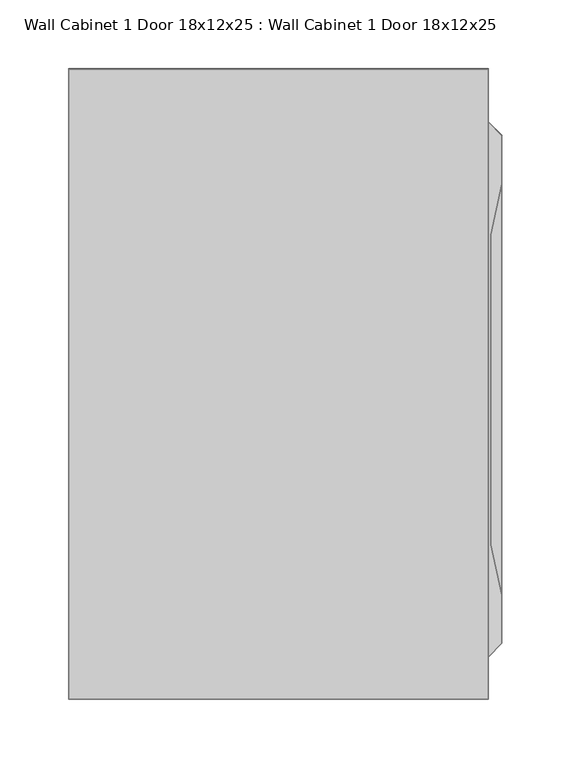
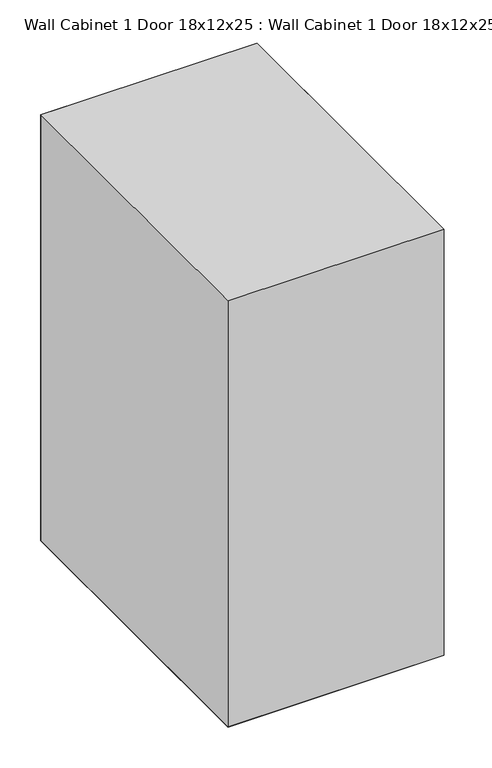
"""IFC4 building model written with IfcOpenShell, lengths in millimetres: furniture geometry, Wall Cabinet 1 Door 18x12x25 : Wall Cabinet 1 Door 18x12x25."""

from ifc_helpers import new_model, si_unit, origin, place, context, project, spatial, triangles, source, transform, mapped, element, save


def wall_cabinet_1_door_18x12x25_wall_cabinet_1_door_18x12x25_5ed39595(model_context):
    return source(origin(), model_context, "Body", "Tessellation", [
        triangles([(304.8, 30.4952407, 609.6), (304.8, 95.2329316, 609.6), (314.4926497, 40.4139167, 601.126571), (314.4926497, 101.8564736, 601.126571), (304.8, 159.9373488, 609.6), (304.8, 224.6417387, 609.6), (314.4926497, 163.265743, 601.126571), (314.4926497, 224.6750216, 601.126571), (304.8, 289.3794296, 609.6), (314.4926497, 286.0843001, 601.126571), (304.8, 354.0838377, 609.6), (304.8, 418.7882458, 609.6), (314.4926497, 347.4935786, 601.126571), (314.4926497, 408.902839, 601.126571), (314.4926497, 40.4139167, 33.7921597), (304.8, 30.4952407, 25.3796804), (314.4926497, 101.8564736, 33.7921597), (304.8, 95.2329316, 25.3796804), (304.8, 159.9373488, 25.3796804), (314.4926497, 163.265743, 33.7921597), (314.4926497, 224.6750216, 33.7921597), (304.8, 224.6417387, 25.3796804), (304.8, 289.3794296, 25.3796804), (314.4926497, 286.0843001, 33.7921597), (304.8, 354.0838377, 25.3796804), (314.4926497, 347.4935786, 33.7921597), (314.4926497, 408.902839, 33.7921597), (304.8, 418.7882458, 25.3796804)], [[3, 2, 1], [4, 2, 3], [4, 7, 2], [5, 2, 7], [7, 6, 5], [8, 6, 7], [8, 9, 6], [10, 9, 8], [10, 11, 9], [13, 11, 10], [13, 12, 11], [14, 12, 13], [17, 16, 15], [17, 18, 16], [19, 18, 17], [17, 20, 19], [22, 19, 20], [20, 21, 22], [24, 22, 21], [24, 23, 22], [26, 23, 24], [26, 25, 23], [27, 25, 26], [27, 28, 25]], closed=False),
        triangles([(306.5068726, 149.6525296, 85.4252817), (306.5068726, 112.041426, 507.0347852), (306.5068726, 150.8507577, 518.1295295), (306.5068726, 187.1637756, 85.4252817), (306.5068726, 224.6417387, 545.3481442), (306.5068726, 184.2680584, 538.7339767), (306.5068726, 224.6417387, 85.4252817), (306.5068726, 265.0154371, 538.7339767), (306.5068726, 262.1529847, 85.4252817), (306.5068726, 298.4660116, 518.1295295), (306.5068726, 299.6642488, 85.4252817), (306.5068726, 337.1422119, 85.4252817), (306.5068726, 337.2420605, 507.0347852), (314.4926497, 373.8213321, 527.029713), (314.4926497, 373.7880492, 63.6625612), (314.4926497, 408.902839, 33.7921597), (314.4926497, 408.902839, 601.126571), (306.5068726, 112.1745756, 85.4252817), (314.4926497, 75.4621408, 527.029713), (314.4926497, 75.528711, 63.6625612), (314.4926497, 40.3806339, 601.126571), (314.4926497, 40.3806339, 33.7921597), (304.8, 30.4952407, 25.3796804), (304.8, 30.4952407, 609.6)], [[18, 1, 2], [3, 2, 1], [1, 4, 3], [6, 3, 4], [4, 7, 6], [5, 6, 7], [7, 9, 5], [8, 5, 9], [9, 11, 8], [10, 8, 11], [11, 12, 10], [13, 10, 12], [12, 14, 13], [15, 14, 12], [15, 16, 14], [17, 14, 16], [19, 18, 2], [19, 20, 18], [22, 20, 19], [19, 21, 22], [23, 22, 21], [21, 24, 23]], closed=False),
        triangles([(314.4926497, 408.902839, 601.126571), (314.4926497, 408.902839, 33.7921597), (304.8, 418.7882458, 609.6), (304.8, 418.7882458, 25.3796804)], [[2, 3, 1], [4, 3, 2]], closed=False),
        triangles([(314.4926497, 40.4139167, 601.126571), (314.4926497, 127.6184185, 537.3014697), (314.4926497, 172.0527793, 562.843697), (314.4926497, 101.8564736, 601.126571), (314.4926497, 163.265743, 601.126571), (314.4926497, 224.6417387, 571.4390662), (314.4926497, 277.2307344, 562.843697), (314.4926497, 224.6750216, 601.126571), (314.4926497, 286.0843001, 601.126571), (314.4926497, 347.4935786, 601.126571), (314.4926497, 408.902839, 601.126571), (314.4926497, 75.4288579, 527.029713), (306.5068726, 112.041426, 507.0347852), (306.5068726, 150.8507577, 518.1295295), (306.5068726, 184.2680584, 538.7339767), (306.5068726, 224.6417387, 545.3481442), (306.5068726, 265.0154371, 538.7339767), (306.5068726, 298.4660116, 518.1295295), (314.4926497, 321.6317851, 537.3014697), (306.5068726, 337.2420605, 507.0347852), (314.4926497, 373.8213321, 527.029713), (306.5068726, 112.1745756, 85.4252817), (314.4926497, 125.1553966, 63.6625612), (306.5068726, 149.6525296, 85.4252817), (314.4926497, 174.8819308, 63.6625612), (306.5068726, 187.1637756, 85.4252817), (306.5068726, 224.6417387, 85.4252817), (314.4926497, 274.3349991, 63.6625612), (306.5068726, 262.1529847, 85.4252817), (306.5068726, 299.6642488, 85.4252817), (314.4926497, 324.0615423, 63.6625612), (306.5068726, 337.1422119, 85.4252817), (314.4926497, 75.4288579, 63.6625612), (314.4926497, 40.4139167, 33.7921597), (314.4926497, 101.8564736, 33.7921597), (314.4926497, 163.265743, 33.7921597), (314.4926497, 224.6084558, 63.6625612), (314.4926497, 224.6750216, 33.7921597), (314.4926497, 286.0843001, 33.7921597), (314.4926497, 347.4935786, 33.7921597), (314.4926497, 408.902839, 33.7921597), (314.4926497, 373.7880492, 63.6625612)], [[12, 2, 1], [4, 1, 2], [2, 3, 4], [5, 4, 3], [3, 6, 5], [8, 5, 6], [6, 7, 8], [9, 8, 7], [7, 19, 9], [10, 9, 19], [19, 21, 10], [11, 10, 21], [13, 2, 12], [14, 2, 13], [14, 3, 2], [15, 3, 14], [15, 6, 3], [16, 6, 15], [17, 6, 16], [7, 6, 17], [18, 7, 17], [19, 7, 18], [20, 19, 18], [21, 19, 20], [33, 24, 22], [23, 24, 33], [23, 25, 24], [26, 24, 25], [25, 27, 26], [37, 27, 25], [37, 29, 27], [28, 29, 37], [28, 30, 29], [31, 30, 28], [31, 42, 30], [32, 30, 42], [34, 35, 33], [23, 33, 35], [35, 36, 23], [25, 23, 36], [36, 38, 25], [37, 25, 38], [38, 39, 37], [28, 37, 39], [39, 40, 28], [31, 28, 40], [40, 41, 31], [42, 31, 41]], closed=False),
        triangles([(0.0, 457.2, 0.0), (304.8, 457.2, 0.0), (304.8, 0.0, 0.0), (0.0, 0.0, 0.0), (304.8, 0.0, 634.9999758), (304.8, 457.2, 634.9999758), (0.0, 457.2, 634.9999758), (0.0, 0.0, 634.9999758)], [[2, 1, 4], [4, 3, 2], [6, 7, 5], [8, 5, 7]], closed=False),
        triangles([(304.8, 0.0, 0.0), (304.8, 457.2, 0.0), (304.8, 457.2, 634.9999758), (304.8, 0.0, 634.9999758), (0.0, 457.2, 634.9999758), (0.0, 457.2, 0.0), (0.0, 0.0, 0.0), (0.0, 0.0, 634.9999758)], [[1, 2, 4], [3, 4, 2], [7, 6, 5], [5, 8, 7]], closed=False),
        triangles([(0.0, 0.0, 634.9999758), (0.0, 0.0, 0.0), (304.8, 0.0, 0.0), (304.8, 0.0, 634.9999758), (304.8, 457.2, 634.9999758), (304.8, 457.2, 0.0), (0.0, 457.2, 0.0), (0.0, 457.2, 634.9999758)], [[3, 2, 1], [1, 4, 3], [6, 7, 5], [8, 5, 7]], closed=False),
    ])


if __name__ == "__main__":
    model = new_model("IFC4")
    model_context = context("Model", 3, world=origin())
    ifc_project = project(units=[si_unit("LENGTHUNIT", "METRE", prefix="MILLI")], contexts=[model_context])
    site = spatial("IfcSite", under=ifc_project)
    building = spatial("IfcBuilding", under=site)
    placement = place(None, origin())
    wall_cabinet_1_door_18x12x25_wall_cabinet_1_door_18x12x25_shape = wall_cabinet_1_door_18x12x25_wall_cabinet_1_door_18x12x25_5ed39595(model_context)
    element("IfcFurniture", 1, ObjectType="Wall Cabinet 1 Door 18x12x25 : Wall Cabinet 1 Door 18x12x25", at=placement, inside=building, context=model_context, shape_type="MappedRepresentation", body=[
        mapped(wall_cabinet_1_door_18x12x25_wall_cabinet_1_door_18x12x25_shape, transform((0.0, 0.0, 0.0), x_axis=(1.0, 0.0, 0.0), y_axis=(0.0, 1.0, 0.0), z_axis=(0.0, 0.0, 1.0))),
    ])
    save(model, "model.ifc")
